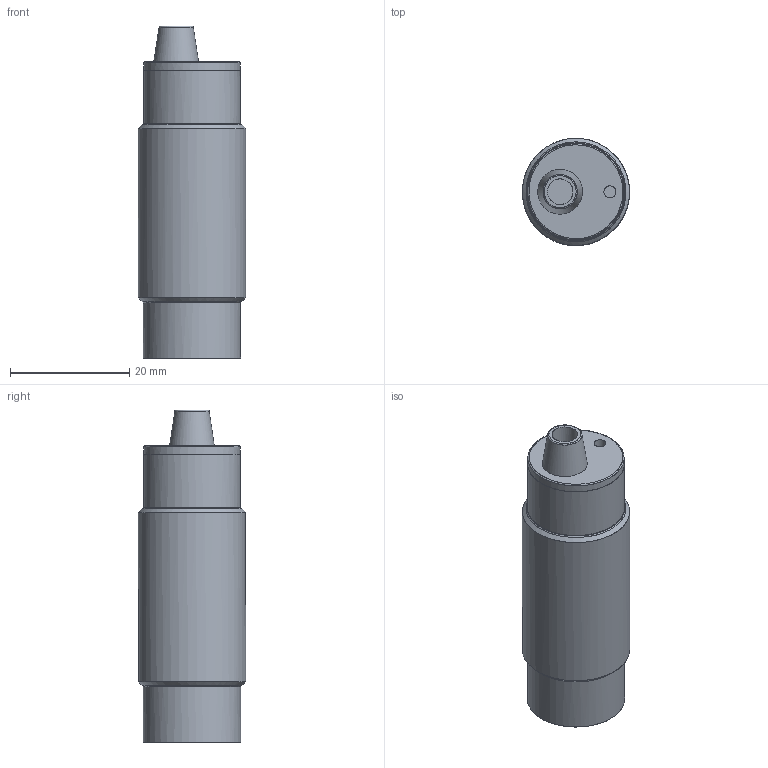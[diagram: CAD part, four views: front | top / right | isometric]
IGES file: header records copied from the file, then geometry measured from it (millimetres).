
Global section: file name: D:\dd\DSD-0325.igs; preprocessor: I-DEAS 3D IGES Translator 13; date: 20100122.125022; units: millimetre
Bounding box: 17.98 x 17.98 x 55.7 mm (x, y, z)
Surface area: 6492.2 mm2 (no closed solid volume)
Topology: 0 solids, 0 shells, 25 faces, 182 edges, 149 vertices
Faces by surface type: bspline 25
